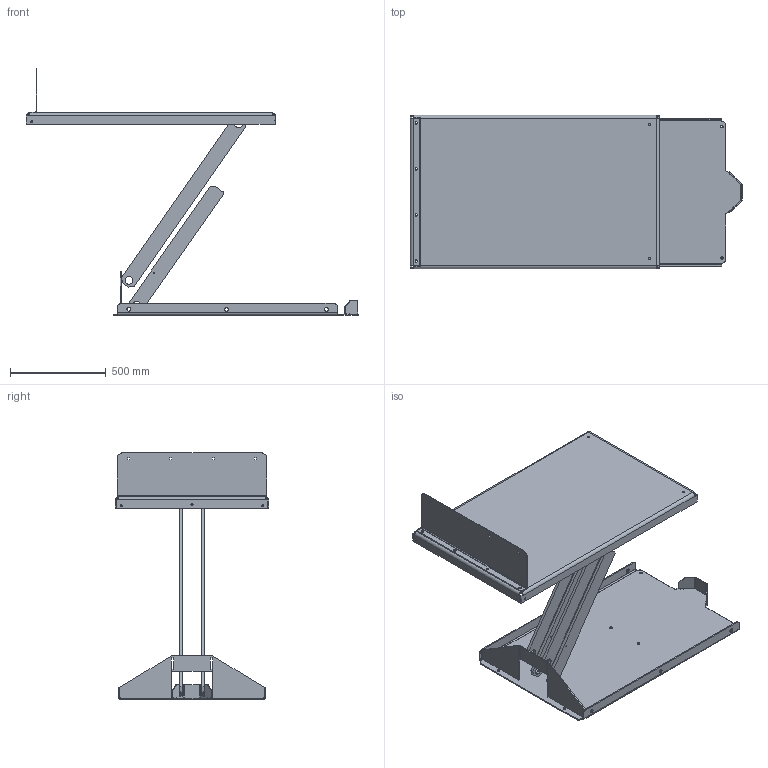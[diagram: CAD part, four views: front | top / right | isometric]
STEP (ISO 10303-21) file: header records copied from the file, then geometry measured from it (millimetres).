
FILE_DESCRIPTION(/* description */ ('ALT 750'),/* implementation_level */ '2;1');
FILE_NAME(/* name */ 'C:\Autodesk_VaultWork\Ritningar\TMP2\22035_Elevated.stp',/* time_stamp */ '2017-08-21T09:19:26+02:00',/* author */ ('johso'),/* organization */ (''),/* preprocessor_version */ 'ST-DEVELOPER v16.5',/* originating_system */ 'Autodesk Inventor 2017',/* authorisation */ '');
FILE_SCHEMA (('AUTOMOTIVE_DESIGN { 1 0 10303 214 3 1 1 }'));
Length unit declared in the file: millimetre
Products named in the file (12): 22035.tmp; 610072; 610075; 610074; 34509; 35006; 35007; 35002; 35001-1; 35004; 34017; 34157
Assembly tree (13 placements, depth 3):
  22035.tmp
    610072
      610075
      610074
      34509
    35006
      35007  x2
    35002
      35001-1
    35004
      34017  x2
    34157
Bounding box: 1731.64 x 800 x 1285 mm (x, y, z)
Volume: 21809646.6 mm3; surface area: 5965895.6 mm2
Topology: 9 solids, 9 shells, 407 faces, 1107 edges, 718 vertices
Faces by surface type: cylinder 213, plane 194
Full cylindrical faces by diameter (mm): 6 x2, 11 x4, 12 x6, 12.5 x6, 13 x6, 20 x6, 40.3 x2, 46.3 x2
Entity records: 11768 total; most frequent: DIRECTION 2105, CARTESIAN_POINT 1964, ORIENTED_EDGE 1894, EDGE_CURVE 947, AXIS2_PLACEMENT_3D 769, VERTEX_POINT 628, LINE 567, VECTOR 567
